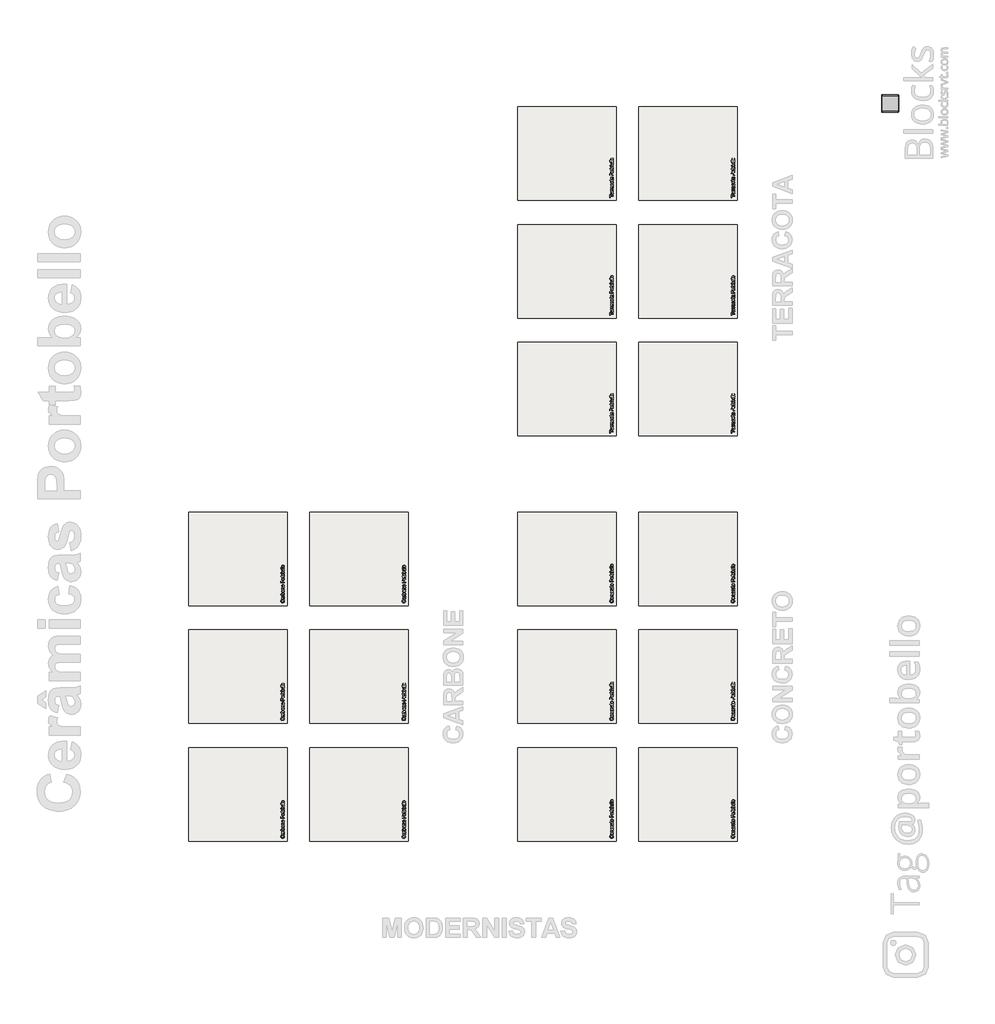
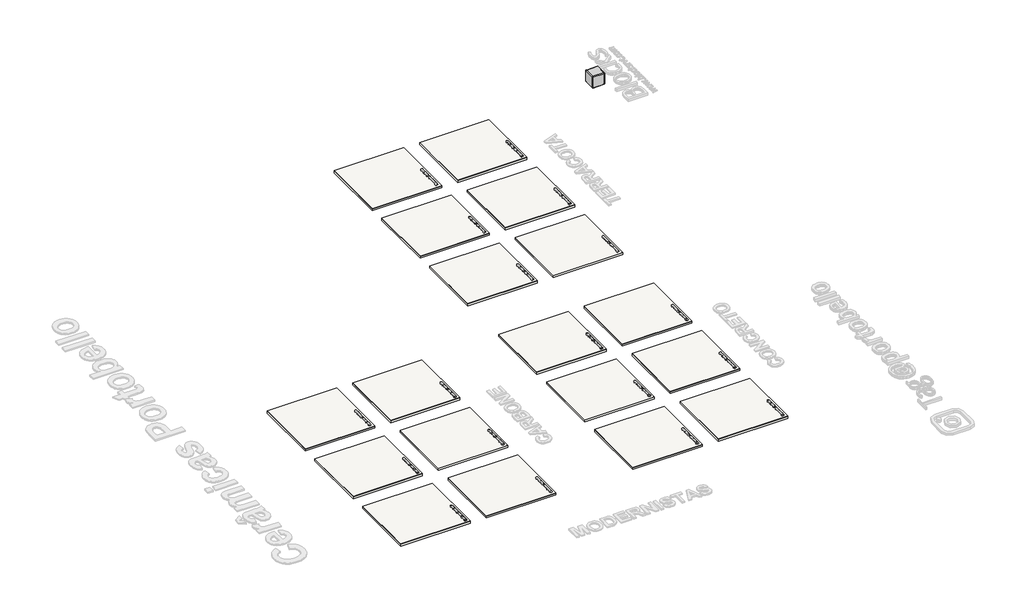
# One storey, part 1 of 12: 36 slabs, 1 furniture element.
"""IFC4 building model written with IfcOpenShell, lengths in millimetres."""

from ifc_helpers import new_model, si_unit, frame, origin, origin_with_axes, place, context, project, spatial, polyline, outline, extrude, transform, mapped, element, save
from components import branco_22256ad2

model = new_model("IFC4")

# Units and contexts
model_context = context("Model", 3, world=origin())
ifc_project = project(units=[si_unit("LENGTHUNIT", "METRE", prefix="MILLI")], contexts=[model_context])

# Site, building, storey
site = spatial("IfcSite", under=ifc_project)
building = spatial("IfcBuilding", under=site)
storey = spatial("IfcBuildingStorey", under=building, Name="PORTOBELLO - SHOWROOM", Elevation=0.0)

# Furniture
placement = place(None, origin())
branco_shape = branco_22256ad2(model_context)
element("IfcFurniture", 1, ObjectType="Blks_Mob_Blocks Revit_Cubo : Branco", at=placement, inside=storey, context=model_context, shape_type="MappedRepresentation", body=[
    mapped(branco_shape, transform((-11276.428734, 11438.8371608, 0.0), x_axis=(1.0, 0.0, 0.0), y_axis=(0.0, 1.0, 0.0), z_axis=(0.0, 0.0, 1.0))),
])

# Slabs
element("IfcSlab", 2, ObjectType="PORTOBELLO - LAJE", at=placement, inside=storey, context=model_context, shape_type="SweptSolid", body=[
    extrude(outline(polyline([(-28686.5937958, -7157.5729659), (-28686.5937958, -9857.5729659), (-31531.5937958, -9857.5729659), (-31531.5937958, -7157.5729659), (-28686.5937958, -7157.5729659)])), frame((0.0, 0.0, -80.0), z_axis=(0.0, 0.0, 1.0), x_axis=(1.0, 0.0, 0.0)), (0.0, 0.0, 1.0), 80.0),
])
element("IfcSlab", 3, ObjectType="PORTOBELLO - MODERNISTAS - CARBONE - 8X100 - MATE - COMPOSIÇÃO 02", at=placement, inside=storey, context=model_context, shape_type="SweptSolid", body=[
    extrude(outline(polyline([(-28686.5937958, -7157.5729659), (-28686.5937958, -9857.5729659), (-31531.5937958, -9857.5729659), (-31531.5937958, -7157.5729659), (-28686.5937958, -7157.5729659)])), origin_with_axes(), (0.0, 0.0, 1.0), 17.0),
])
element("IfcSlab", 4, ObjectType="PORTOBELLO - LAJE", at=placement, inside=storey, context=model_context, shape_type="SweptSolid", body=[
    extrude(outline(polyline([(-25186.5937958, -7157.5729659), (-25186.5937958, -9857.5729659), (-28031.5937958, -9857.5729659), (-28031.5937958, -7157.5729659), (-25186.5937958, -7157.5729659)])), frame((0.0, 0.0, -80.0), z_axis=(0.0, 0.0, 1.0), x_axis=(1.0, 0.0, 0.0)), (0.0, 0.0, 1.0), 80.0),
])
element("IfcSlab", 5, ObjectType="PORTOBELLO - MODERNISTAS - CARBONE - 8X100 - MATE - COMPOSIÇÃO 01", at=placement, inside=storey, context=model_context, shape_type="SweptSolid", body=[
    extrude(outline(polyline([(-25186.5937958, -7157.5729659), (-25186.5937958, -9857.5729659), (-28031.5937958, -9857.5729659), (-28031.5937958, -7157.5729659), (-25186.5937958, -7157.5729659)])), origin_with_axes(), (0.0, 0.0, 1.0), 17.0),
])
element("IfcSlab", 6, ObjectType="PORTOBELLO - LAJE", at=placement, inside=storey, context=model_context, shape_type="SweptSolid", body=[
    extrude(outline(polyline([(-28686.5937958, -3757.5729659), (-28686.5937958, -6457.5729659), (-31531.5937958, -6457.5729659), (-31531.5937958, -3757.5729659), (-28686.5937958, -3757.5729659)])), frame((0.0, 0.0, -80.0), z_axis=(0.0, 0.0, 1.0), x_axis=(1.0, 0.0, 0.0)), (0.0, 0.0, 1.0), 80.0),
])
element("IfcSlab", 7, ObjectType="PORTOBELLO - MODERNISTAS - CARBONE - 12X100 - MATE - COMPOSIÇÃO 02", at=placement, inside=storey, context=model_context, shape_type="SweptSolid", body=[
    extrude(outline(polyline([(-28686.5937958, -3757.5729659), (-28686.5937958, -6457.5729659), (-31531.5937958, -6457.5729659), (-31531.5937958, -3757.5729659), (-28686.5937958, -3757.5729659)])), origin_with_axes(), (0.0, 0.0, 1.0), 17.0),
])
element("IfcSlab", 8, ObjectType="PORTOBELLO - LAJE", at=placement, inside=storey, context=model_context, shape_type="SweptSolid", body=[
    extrude(outline(polyline([(-25186.5937958, -3757.5729659), (-25186.5937958, -6457.5729659), (-28031.5937958, -6457.5729659), (-28031.5937958, -3757.5729659), (-25186.5937958, -3757.5729659)])), frame((0.0, 0.0, -80.0), z_axis=(0.0, 0.0, 1.0), x_axis=(1.0, 0.0, 0.0)), (0.0, 0.0, 1.0), 80.0),
])
element("IfcSlab", 9, ObjectType="PORTOBELLO - MODERNISTAS - CARBONE - 12X100 - MATE - COMPOSIÇÃO 01", at=placement, inside=storey, context=model_context, shape_type="SweptSolid", body=[
    extrude(outline(polyline([(-25186.5937958, -3757.5729659), (-25186.5937958, -6457.5729659), (-28031.5937958, -6457.5729659), (-28031.5937958, -3757.5729659), (-25186.5937958, -3757.5729659)])), origin_with_axes(), (0.0, 0.0, 1.0), 17.0),
])
element("IfcSlab", 10, ObjectType="PORTOBELLO - LAJE", at=placement, inside=storey, context=model_context, shape_type="SweptSolid", body=[
    extrude(outline(polyline([(-28686.5937958, -357.5729659), (-28686.5937958, -3057.5729659), (-31531.5937958, -3057.5729659), (-31531.5937958, -357.5729659), (-28686.5937958, -357.5729659)])), frame((0.0, 0.0, -80.0), z_axis=(0.0, 0.0, 1.0), x_axis=(1.0, 0.0, 0.0)), (0.0, 0.0, 1.0), 80.0),
])
element("IfcSlab", 11, ObjectType="PORTOBELLO - MODERNISTAS - CARBONE - 16X100 - MATE - COMPOSIÇÃO 02", at=placement, inside=storey, context=model_context, shape_type="SweptSolid", body=[
    extrude(outline(polyline([(-28686.5937958, -357.5729659), (-28686.5937958, -3057.5729659), (-31531.5937958, -3057.5729659), (-31531.5937958, -357.5729659), (-28686.5937958, -357.5729659)])), origin_with_axes(), (0.0, 0.0, 1.0), 17.0),
])
element("IfcSlab", 12, ObjectType="PORTOBELLO - LAJE", at=placement, inside=storey, context=model_context, shape_type="SweptSolid", body=[
    extrude(outline(polyline([(-25186.5937958, -357.5729659), (-25186.5937958, -3057.5729659), (-28031.5937958, -3057.5729659), (-28031.5937958, -357.5729659), (-25186.5937958, -357.5729659)])), frame((0.0, 0.0, -80.0), z_axis=(0.0, 0.0, 1.0), x_axis=(1.0, 0.0, 0.0)), (0.0, 0.0, 1.0), 80.0),
])
element("IfcSlab", 13, ObjectType="PORTOBELLO - MODERNISTAS - CARBONE - 16X100 - MATE - COMPOSIÇÃO 01", at=placement, inside=storey, context=model_context, shape_type="SweptSolid", body=[
    extrude(outline(polyline([(-25186.5937958, -357.5729659), (-25186.5937958, -3057.5729659), (-28031.5937958, -3057.5729659), (-28031.5937958, -357.5729659), (-25186.5937958, -357.5729659)])), origin_with_axes(), (0.0, 0.0, 1.0), 17.0),
])
element("IfcSlab", 14, ObjectType="PORTOBELLO - LAJE", at=placement, inside=storey, context=model_context, shape_type="SweptSolid", body=[
    extrude(outline(polyline([(-15686.5937958, -7157.5729659), (-15686.5937958, -9857.5729659), (-18531.5937958, -9857.5729659), (-18531.5937958, -7157.5729659), (-15686.5937958, -7157.5729659)])), frame((0.0, 0.0, -80.0), z_axis=(0.0, 0.0, 1.0), x_axis=(1.0, 0.0, 0.0)), (0.0, 0.0, 1.0), 80.0),
])
element("IfcSlab", 15, ObjectType="PORTOBELLO - MODERNISTAS - CONCRETO - 8X100 - MATE - COMPOSIÇÃO 01", at=placement, inside=storey, context=model_context, shape_type="SweptSolid", body=[
    extrude(outline(polyline([(-15686.5937958, -7157.5729659), (-15686.5937958, -9857.5729659), (-18531.5937958, -9857.5729659), (-18531.5937958, -7157.5729659), (-15686.5937958, -7157.5729659)])), origin_with_axes(), (0.0, 0.0, 1.0), 17.0),
])
element("IfcSlab", 16, ObjectType="PORTOBELLO - LAJE", at=placement, inside=storey, context=model_context, shape_type="SweptSolid", body=[
    extrude(outline(polyline([(-19186.5937958, -7157.5729659), (-19186.5937958, -9857.5729659), (-22031.5937958, -9857.5729659), (-22031.5937958, -7157.5729659), (-19186.5937958, -7157.5729659)])), frame((0.0, 0.0, -80.0), z_axis=(0.0, 0.0, 1.0), x_axis=(1.0, 0.0, 0.0)), (0.0, 0.0, 1.0), 80.0),
])
element("IfcSlab", 17, ObjectType="PORTOBELLO - MODERNISTAS - CONCRETO - 8X100 - MATE - COMPOSIÇÃO 02", at=placement, inside=storey, context=model_context, shape_type="SweptSolid", body=[
    extrude(outline(polyline([(-19186.5937958, -7157.5729659), (-19186.5937958, -9857.5729659), (-22031.5937958, -9857.5729659), (-22031.5937958, -7157.5729659), (-19186.5937958, -7157.5729659)])), origin_with_axes(), (0.0, 0.0, 1.0), 17.0),
])
element("IfcSlab", 18, ObjectType="PORTOBELLO - LAJE", at=placement, inside=storey, context=model_context, shape_type="SweptSolid", body=[
    extrude(outline(polyline([(-15686.5937958, -3757.5729659), (-15686.5937958, -6457.5729659), (-18531.5937958, -6457.5729659), (-18531.5937958, -3757.5729659), (-15686.5937958, -3757.5729659)])), frame((0.0, 0.0, -80.0), z_axis=(0.0, 0.0, 1.0), x_axis=(1.0, 0.0, 0.0)), (0.0, 0.0, 1.0), 80.0),
])
element("IfcSlab", 19, ObjectType="PORTOBELLO - MODERNISTAS - CONCRETO - 12X100 - MATE - COMPOSIÇÃO 01", at=placement, inside=storey, context=model_context, shape_type="SweptSolid", body=[
    extrude(outline(polyline([(-15686.5937958, -3757.5729659), (-15686.5937958, -6457.5729659), (-18531.5937958, -6457.5729659), (-18531.5937958, -3757.5729659), (-15686.5937958, -3757.5729659)])), origin_with_axes(), (0.0, 0.0, 1.0), 17.0),
])
element("IfcSlab", 20, ObjectType="PORTOBELLO - LAJE", at=placement, inside=storey, context=model_context, shape_type="SweptSolid", body=[
    extrude(outline(polyline([(-19186.5937958, -3757.5729659), (-19186.5937958, -6457.5729659), (-22031.5937958, -6457.5729659), (-22031.5937958, -3757.5729659), (-19186.5937958, -3757.5729659)])), frame((0.0, 0.0, -80.0), z_axis=(0.0, 0.0, 1.0), x_axis=(1.0, 0.0, 0.0)), (0.0, 0.0, 1.0), 80.0),
])
element("IfcSlab", 21, ObjectType="PORTOBELLO - MODERNISTAS - CONCRETO - 12X100 - MATE - COMPOSIÇÃO 02", at=placement, inside=storey, context=model_context, shape_type="SweptSolid", body=[
    extrude(outline(polyline([(-19186.5937958, -3757.5729659), (-19186.5937958, -6457.5729659), (-22031.5937958, -6457.5729659), (-22031.5937958, -3757.5729659), (-19186.5937958, -3757.5729659)])), origin_with_axes(), (0.0, 0.0, 1.0), 17.0),
])
element("IfcSlab", 22, ObjectType="PORTOBELLO - LAJE", at=placement, inside=storey, context=model_context, shape_type="SweptSolid", body=[
    extrude(outline(polyline([(-15686.5937958, -357.5729659), (-15686.5937958, -3057.5729659), (-18531.5937958, -3057.5729659), (-18531.5937958, -357.5729659), (-15686.5937958, -357.5729659)])), frame((0.0, 0.0, -80.0), z_axis=(0.0, 0.0, 1.0), x_axis=(1.0, 0.0, 0.0)), (0.0, 0.0, 1.0), 80.0),
])
element("IfcSlab", 23, ObjectType="PORTOBELLO - MODERNISTAS - CONCRETO - 16X100 - MATE - COMPOSIÇÃO 01", at=placement, inside=storey, context=model_context, shape_type="SweptSolid", body=[
    extrude(outline(polyline([(-15686.5937958, -357.5729659), (-15686.5937958, -3057.5729659), (-18531.5937958, -3057.5729659), (-18531.5937958, -357.5729659), (-15686.5937958, -357.5729659)])), origin_with_axes(), (0.0, 0.0, 1.0), 17.0),
])
element("IfcSlab", 24, ObjectType="PORTOBELLO - LAJE", at=placement, inside=storey, context=model_context, shape_type="SweptSolid", body=[
    extrude(outline(polyline([(-19186.5937958, -357.5729659), (-19186.5937958, -3057.5729659), (-22031.5937958, -3057.5729659), (-22031.5937958, -357.5729659), (-19186.5937958, -357.5729659)])), frame((0.0, 0.0, -80.0), z_axis=(0.0, 0.0, 1.0), x_axis=(1.0, 0.0, 0.0)), (0.0, 0.0, 1.0), 80.0),
])
element("IfcSlab", 25, ObjectType="PORTOBELLO - MODERNISTAS - CONCRETO - 16X100 - MATE - COMPOSIÇÃO 02", at=placement, inside=storey, context=model_context, shape_type="SweptSolid", body=[
    extrude(outline(polyline([(-19186.5937958, -357.5729659), (-19186.5937958, -3057.5729659), (-22031.5937958, -3057.5729659), (-22031.5937958, -357.5729659), (-19186.5937958, -357.5729659)])), origin_with_axes(), (0.0, 0.0, 1.0), 17.0),
])
element("IfcSlab", 26, ObjectType="PORTOBELLO - LAJE", at=placement, inside=storey, context=model_context, shape_type="SweptSolid", body=[
    extrude(outline(polyline([(-15686.5937958, 4542.4270341), (-15686.5937958, 1842.4270341), (-18531.5937958, 1842.4270341), (-18531.5937958, 4542.4270341), (-15686.5937958, 4542.4270341)])), frame((0.0, 0.0, -80.0), z_axis=(0.0, 0.0, 1.0), x_axis=(1.0, 0.0, 0.0)), (0.0, 0.0, 1.0), 80.0),
])
element("IfcSlab", 27, ObjectType="PORTOBELLO - MODERNISTAS - TERRACOTA - 8X100 - MATE - COMPOSIÇÃO 01", at=placement, inside=storey, context=model_context, shape_type="SweptSolid", body=[
    extrude(outline(polyline([(-15686.5937958, 4542.4270341), (-15686.5937958, 1842.4270341), (-18531.5937958, 1842.4270341), (-18531.5937958, 4542.4270341), (-15686.5937958, 4542.4270341)])), origin_with_axes(), (0.0, 0.0, 1.0), 17.0),
])
element("IfcSlab", 28, ObjectType="PORTOBELLO - LAJE", at=placement, inside=storey, context=model_context, shape_type="SweptSolid", body=[
    extrude(outline(polyline([(-19186.5937958, 4542.4270341), (-19186.5937958, 1842.4270341), (-22031.5937958, 1842.4270341), (-22031.5937958, 4542.4270341), (-19186.5937958, 4542.4270341)])), frame((0.0, 0.0, -80.0), z_axis=(0.0, 0.0, 1.0), x_axis=(1.0, 0.0, 0.0)), (0.0, 0.0, 1.0), 80.0),
])
element("IfcSlab", 29, ObjectType="PORTOBELLO - MODERNISTAS - TERRACOTA - 8X100 - MATE - COMPOSIÇÃO 02", at=placement, inside=storey, context=model_context, shape_type="SweptSolid", body=[
    extrude(outline(polyline([(-19186.5937958, 4542.4270341), (-19186.5937958, 1842.4270341), (-22031.5937958, 1842.4270341), (-22031.5937958, 4542.4270341), (-19186.5937958, 4542.4270341)])), origin_with_axes(), (0.0, 0.0, 1.0), 17.0),
])
element("IfcSlab", 30, ObjectType="PORTOBELLO - LAJE", at=placement, inside=storey, context=model_context, shape_type="SweptSolid", body=[
    extrude(outline(polyline([(-15686.5937958, 11342.4270341), (-15686.5937958, 8642.4270341), (-18531.5937958, 8642.4270341), (-18531.5937958, 11342.4270341), (-15686.5937958, 11342.4270341)])), frame((0.0, 0.0, -80.0), z_axis=(0.0, 0.0, 1.0), x_axis=(1.0, 0.0, 0.0)), (0.0, 0.0, 1.0), 80.0),
])
element("IfcSlab", 31, ObjectType="PORTOBELLO - MODERNISTAS - TERRACOTA - 16X100 - MATE - COMPOSIÇÃO 01", at=placement, inside=storey, context=model_context, shape_type="SweptSolid", body=[
    extrude(outline(polyline([(-15686.5937958, 11342.4270341), (-15686.5937958, 8642.4270341), (-18531.5937958, 8642.4270341), (-18531.5937958, 11342.4270341), (-15686.5937958, 11342.4270341)])), origin_with_axes(), (0.0, 0.0, 1.0), 17.0),
])
element("IfcSlab", 32, ObjectType="PORTOBELLO - LAJE", at=placement, inside=storey, context=model_context, shape_type="SweptSolid", body=[
    extrude(outline(polyline([(-19186.5937958, 11342.4270341), (-19186.5937958, 8642.4270341), (-22031.5937958, 8642.4270341), (-22031.5937958, 11342.4270341), (-19186.5937958, 11342.4270341)])), frame((0.0, 0.0, -80.0), z_axis=(0.0, 0.0, 1.0), x_axis=(1.0, 0.0, 0.0)), (0.0, 0.0, 1.0), 80.0),
])
element("IfcSlab", 33, ObjectType="PORTOBELLO - MODERNISTAS - TERRACOTA - 16X100 - MATE - COMPOSIÇÃO 02", at=placement, inside=storey, context=model_context, shape_type="SweptSolid", body=[
    extrude(outline(polyline([(-19186.5937958, 11342.4270341), (-19186.5937958, 8642.4270341), (-22031.5937958, 8642.4270341), (-22031.5937958, 11342.4270341), (-19186.5937958, 11342.4270341)])), origin_with_axes(), (0.0, 0.0, 1.0), 17.0),
])
element("IfcSlab", 34, ObjectType="PORTOBELLO - LAJE", at=placement, inside=storey, context=model_context, shape_type="SweptSolid", body=[
    extrude(outline(polyline([(-15686.5937958, 7942.4270341), (-15686.5937958, 5242.4270341), (-18531.5937958, 5242.4270341), (-18531.5937958, 7942.4270341), (-15686.5937958, 7942.4270341)])), frame((0.0, 0.0, -80.0), z_axis=(0.0, 0.0, 1.0), x_axis=(1.0, 0.0, 0.0)), (0.0, 0.0, 1.0), 80.0),
])
element("IfcSlab", 35, ObjectType="PORTOBELLO - MODERNISTAS - TERRACOTA - 12X100 - MATE - COMPOSIÇÃO 01", at=placement, inside=storey, context=model_context, shape_type="SweptSolid", body=[
    extrude(outline(polyline([(-15686.5937958, 7942.4270341), (-15686.5937958, 5242.4270341), (-18531.5937958, 5242.4270341), (-18531.5937958, 7942.4270341), (-15686.5937958, 7942.4270341)])), origin_with_axes(), (0.0, 0.0, 1.0), 17.0),
])
element("IfcSlab", 36, ObjectType="PORTOBELLO - LAJE", at=placement, inside=storey, context=model_context, shape_type="SweptSolid", body=[
    extrude(outline(polyline([(-19186.5937958, 7942.4270341), (-19186.5937958, 5242.4270341), (-22031.5937958, 5242.4270341), (-22031.5937958, 7942.4270341), (-19186.5937958, 7942.4270341)])), frame((0.0, 0.0, -80.0), z_axis=(0.0, 0.0, 1.0), x_axis=(1.0, 0.0, 0.0)), (0.0, 0.0, 1.0), 80.0),
])
element("IfcSlab", 37, ObjectType="PORTOBELLO - MODERNISTAS - TERRACOTA - 12X100 - MATE - COMPOSIÇÃO 02", at=placement, inside=storey, context=model_context, shape_type="SweptSolid", body=[
    extrude(outline(polyline([(-19186.5937958, 7942.4270341), (-19186.5937958, 5242.4270341), (-22031.5937958, 5242.4270341), (-22031.5937958, 7942.4270341), (-19186.5937958, 7942.4270341)])), origin_with_axes(), (0.0, 0.0, 1.0), 17.0),
])

save(model, "model.ifc")
